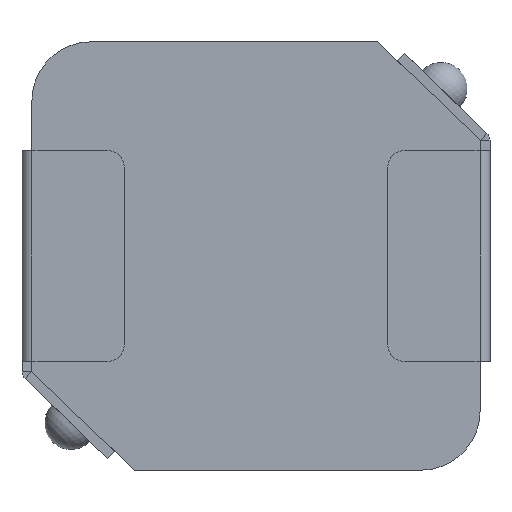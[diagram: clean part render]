
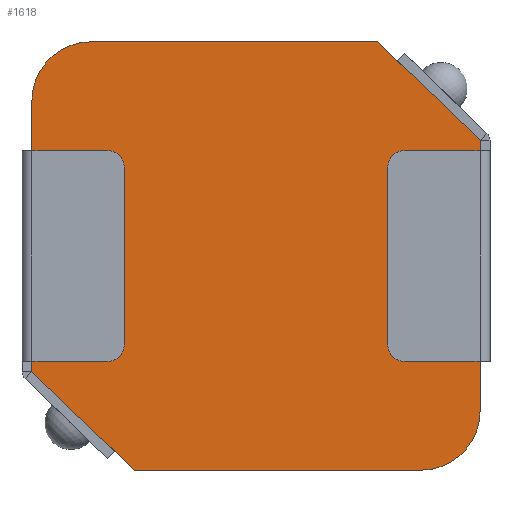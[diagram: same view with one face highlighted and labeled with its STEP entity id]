
A CAD part, front view. The second image highlights one B-rep face of the part: STEP entity #1618.
In plain terms, the highlighted planar face has unit normal (0, -1, 0).
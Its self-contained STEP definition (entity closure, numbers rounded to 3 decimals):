
#36=PLANE('',#1750);
#114=FACE_OUTER_BOUND('',#218,.T.);
#218=EDGE_LOOP('',(#1175,#1176,#1177,#1178,#1179,#1180,#1181,#1182));
#326=LINE('',#2435,#504);
#328=LINE('',#2439,#506);
#331=LINE('',#2445,#509);
#338=LINE('',#2463,#516);
#342=LINE('',#2471,#520);
#345=LINE('',#2476,#523);
#504=VECTOR('',#1924,1000.);
#506=VECTOR('',#1928,1000.);
#509=VECTOR('',#1933,1000.);
#516=VECTOR('',#1948,1000.);
#520=VECTOR('',#1954,1000.);
#523=VECTOR('',#1959,1000.);
#675=CIRCLE('',#1736,0.9);
#677=CIRCLE('',#1742,0.9);
#737=VERTEX_POINT('',#2415);
#738=VERTEX_POINT('',#2416);
#746=VERTEX_POINT('',#2433);
#747=VERTEX_POINT('',#2438);
#749=VERTEX_POINT('',#2444);
#751=VERTEX_POINT('',#2450);
#756=VERTEX_POINT('',#2461);
#759=VERTEX_POINT('',#2470);
#879=EDGE_CURVE('',#737,#738,#675,.T.);
#888=EDGE_CURVE('',#738,#746,#326,.T.);
#890=EDGE_CURVE('',#746,#747,#328,.T.);
#893=EDGE_CURVE('',#747,#749,#331,.T.);
#896=EDGE_CURVE('',#749,#751,#677,.T.);
#902=EDGE_CURVE('',#751,#756,#338,.T.);
#906=EDGE_CURVE('',#756,#759,#342,.T.);
#909=EDGE_CURVE('',#759,#737,#345,.T.);
#1175=ORIENTED_EDGE('',*,*,#879,.T.);
#1176=ORIENTED_EDGE('',*,*,#888,.T.);
#1177=ORIENTED_EDGE('',*,*,#890,.T.);
#1178=ORIENTED_EDGE('',*,*,#893,.T.);
#1179=ORIENTED_EDGE('',*,*,#896,.T.);
#1180=ORIENTED_EDGE('',*,*,#902,.T.);
#1181=ORIENTED_EDGE('',*,*,#906,.T.);
#1182=ORIENTED_EDGE('',*,*,#909,.T.);
#1618=ADVANCED_FACE('',(#114),#36,.F.);
#1736=AXIS2_PLACEMENT_3D('',#2417,#1911,#1912);
#1742=AXIS2_PLACEMENT_3D('',#2451,#1938,#1939);
#1750=AXIS2_PLACEMENT_3D('',#2491,#1973,#1974);
#1911=DIRECTION('center_axis',(0.,-1.,0.));
#1912=DIRECTION('ref_axis',(0.,0.,1.));
#1924=DIRECTION('',(0.,0.,-1.));
#1928=DIRECTION('',(0.719,0.,-0.695));
#1933=DIRECTION('',(1.,0.,0.));
#1938=DIRECTION('center_axis',(0.,-1.,0.));
#1939=DIRECTION('ref_axis',(0.,0.,1.));
#1948=DIRECTION('',(0.,0.,1.));
#1954=DIRECTION('',(-0.719,0.,0.695));
#1959=DIRECTION('',(-1.,0.,0.));
#1973=DIRECTION('center_axis',(0.,1.,0.));
#1974=DIRECTION('ref_axis',(0.,0.,1.));
#2415=CARTESIAN_POINT('',(-2.5,0.15,3.25));
#2416=CARTESIAN_POINT('',(-3.4,0.15,2.35));
#2417=CARTESIAN_POINT('Origin',(-2.5,0.15,2.35));
#2433=CARTESIAN_POINT('',(-3.4,0.15,-1.753));
#2435=CARTESIAN_POINT('',(-3.4,0.15,-1.753));
#2438=CARTESIAN_POINT('',(-1.85,0.15,-3.25));
#2439=CARTESIAN_POINT('',(-1.85,0.15,-3.25));
#2444=CARTESIAN_POINT('',(2.5,0.15,-3.25));
#2445=CARTESIAN_POINT('',(2.5,0.15,-3.25));
#2450=CARTESIAN_POINT('',(3.4,0.15,-2.35));
#2451=CARTESIAN_POINT('Origin',(2.5,0.15,-2.35));
#2461=CARTESIAN_POINT('',(3.4,0.15,1.753));
#2463=CARTESIAN_POINT('',(3.4,0.15,1.753));
#2470=CARTESIAN_POINT('',(1.85,0.15,3.25));
#2471=CARTESIAN_POINT('',(1.85,0.15,3.25));
#2476=CARTESIAN_POINT('',(-2.5,0.15,3.25));
#2491=CARTESIAN_POINT('Origin',(0.,0.15,0.));
